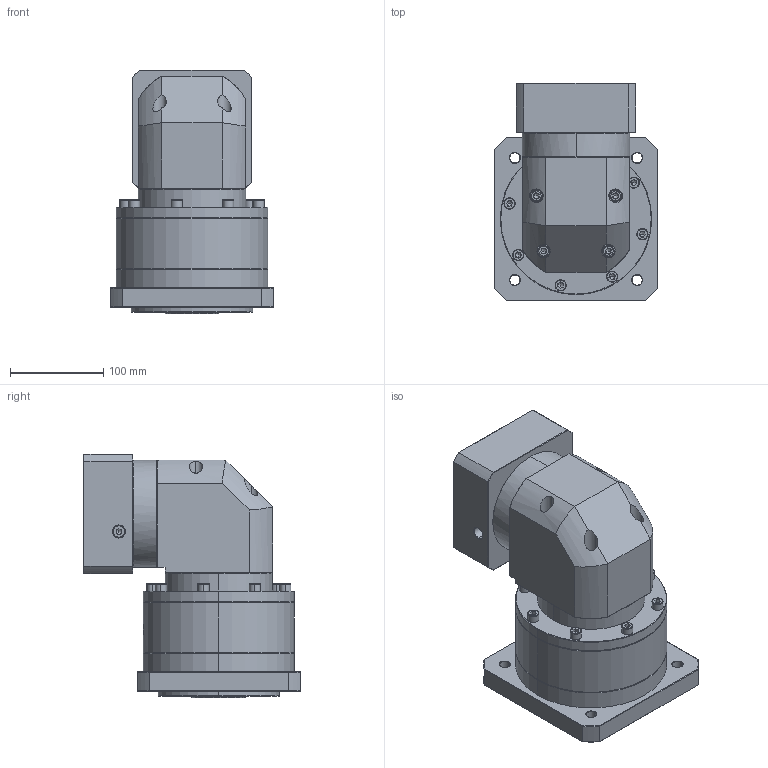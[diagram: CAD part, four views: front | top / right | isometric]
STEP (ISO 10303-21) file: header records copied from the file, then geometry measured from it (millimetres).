
FILE_DESCRIPTION (( 'STEP AP214' ), '1' );
FILE_NAME ('ZFR160A-K35-L2-P2-28-110-145-M8.step', '2023-09-03T09:44:49', ( '' ), ( '' ), 'SwSTEP 2.0', 'SolidWorks 2016', '' );
FILE_SCHEMA (( 'AUTOMOTIVE_DESIGN' ));
Length unit declared in the file: millimetre
Products named in the file (1): ZFR160A-K35-L2-P2-28-110-145-M8
Bounding box: 175 x 232.4 x 261.2 mm (x, y, z)
Volume: 4849587 mm3; surface area: 347646.2 mm2
Topology: 6 solids, 6 shells, 2415 faces, 6327 edges, 4035 vertices
Faces by surface type: plane 1140, cylinder 462, bspline 404, cone 365, torus 44
Entity records: 126530 total; most frequent: CARTESIAN_POINT 45656, ORIENTED_EDGE 12550, DIRECTION 9565, EDGE_CURVE 6275, VERTEX_POINT 4035, LINE 3385, VECTOR 3385, AXIS2_PLACEMENT_3D 3090
